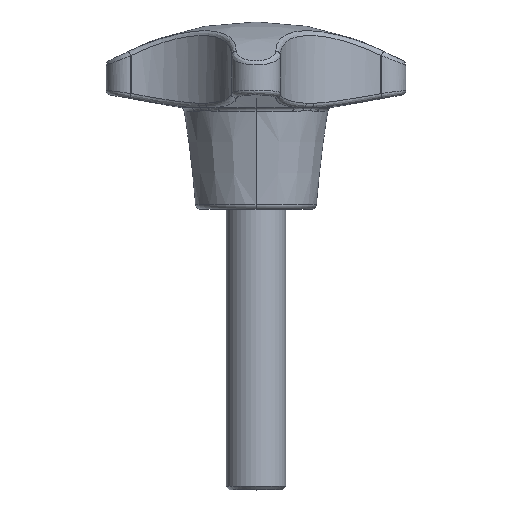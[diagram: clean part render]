
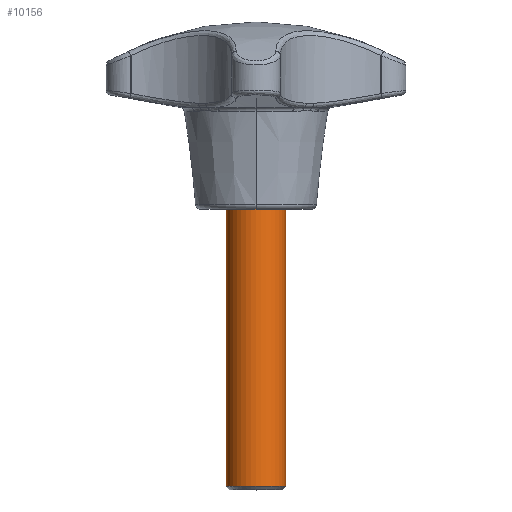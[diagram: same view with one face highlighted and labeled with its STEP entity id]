
A CAD part, top view. The second image highlights one B-rep face of the part: STEP entity #10156.
In plain terms, the highlighted cylindrical face has radius 8 mm (diameter 16 mm), a partial arc.
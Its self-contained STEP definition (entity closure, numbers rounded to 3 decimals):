
#2268 = CARTESIAN_POINT ( 'NONE',  ( 8., 0., 0. ) ) ;
#2280 = DIRECTION ( 'NONE',  ( 0., 1., 0. ) ) ;
#2281 = VECTOR ( 'NONE', #2280, 1000. ) ;
#2287 = CARTESIAN_POINT ( 'NONE',  ( 8., 24., 0. ) ) ;
#2299 = LINE ( 'NONE', #2287, #2281 ) ;
#2344 = CARTESIAN_POINT ( 'NONE',  ( 0., 24., 0. ) ) ;
#2345 = AXIS2_PLACEMENT_3D ( 'NONE', #2344, #2412, #2411 ) ;
#2346 = CYLINDRICAL_SURFACE ( 'NONE', #2345, 8. ) ;
#2372 = CIRCLE ( 'NONE', #2408, 8. ) ;
#2373 = FACE_OUTER_BOUND ( 'NONE', #10123, .T. ) ;
#2397 = CARTESIAN_POINT ( 'NONE',  ( -8., 0., 0. ) ) ;
#2400 = DIRECTION ( 'NONE',  ( 0., 1., 0. ) ) ;
#2401 = VECTOR ( 'NONE', #2400, 1000. ) ;
#2405 = DIRECTION ( 'NONE',  ( -1., 0., 0. ) ) ;
#2406 = DIRECTION ( 'NONE',  ( 0., 1., 0. ) ) ;
#2407 = CARTESIAN_POINT ( 'NONE',  ( 0., 0., 0. ) ) ;
#2408 = AXIS2_PLACEMENT_3D ( 'NONE', #2407, #2406, #2405 ) ;
#2409 = CARTESIAN_POINT ( 'NONE',  ( -8., 24., 0. ) ) ;
#2410 = LINE ( 'NONE', #2409, #2401 ) ;
#2411 = DIRECTION ( 'NONE',  ( -1., 0., 0. ) ) ;
#2412 = DIRECTION ( 'NONE',  ( 0., 1., 0. ) ) ;
#3153 = CIRCLE ( 'NONE', #3193, 8. ) ;
#3190 = DIRECTION ( 'NONE',  ( -1., 0., 0. ) ) ;
#3191 = DIRECTION ( 'NONE',  ( 0., 1., 0. ) ) ;
#3192 = CARTESIAN_POINT ( 'NONE',  ( 0., -74., 0. ) ) ;
#3193 = AXIS2_PLACEMENT_3D ( 'NONE', #3192, #3191, #3190 ) ;
#3551 = CARTESIAN_POINT ( 'NONE',  ( -8., -74., 0. ) ) ;
#3889 = CARTESIAN_POINT ( 'NONE',  ( 8., -74., 0. ) ) ;
#10074 = VERTEX_POINT ( 'NONE', #2268 ) ;
#10090 = EDGE_CURVE ( 'NONE', #13418, #10074, #2299, .T. ) ;
#10123 = EDGE_LOOP ( 'NONE', ( #10159, #10160, #10167, #10163 ) ) ;
#10156 = ADVANCED_FACE ( 'NONE', ( #2373 ), #2346, .T. ) ;
#10159 = ORIENTED_EDGE ( 'NONE', *, *, #13369, .T. ) ;
#10160 = ORIENTED_EDGE ( 'NONE', *, *, #10090, .T. ) ;
#10162 = EDGE_CURVE ( 'NONE', #10244, #10074, #2372, .T. ) ;
#10163 = ORIENTED_EDGE ( 'NONE', *, *, #10166, .F. ) ;
#10166 = EDGE_CURVE ( 'NONE', #13387, #10244, #2410, .T. ) ;
#10167 = ORIENTED_EDGE ( 'NONE', *, *, #10162, .F. ) ;
#10244 = VERTEX_POINT ( 'NONE', #2397 ) ;
#13369 = EDGE_CURVE ( 'NONE', #13387, #13418, #3153, .T. ) ;
#13387 = VERTEX_POINT ( 'NONE', #3551 ) ;
#13418 = VERTEX_POINT ( 'NONE', #3889 ) ;
